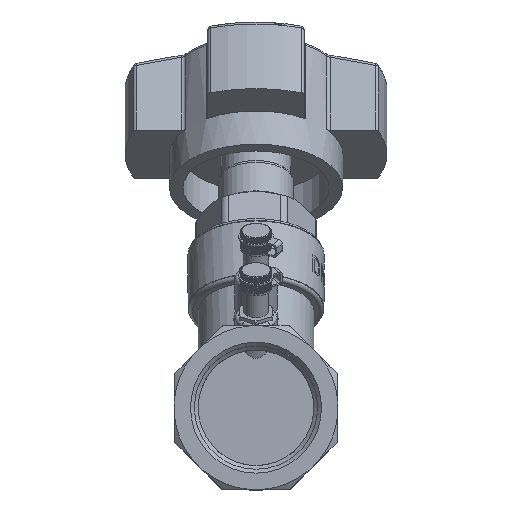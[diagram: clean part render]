
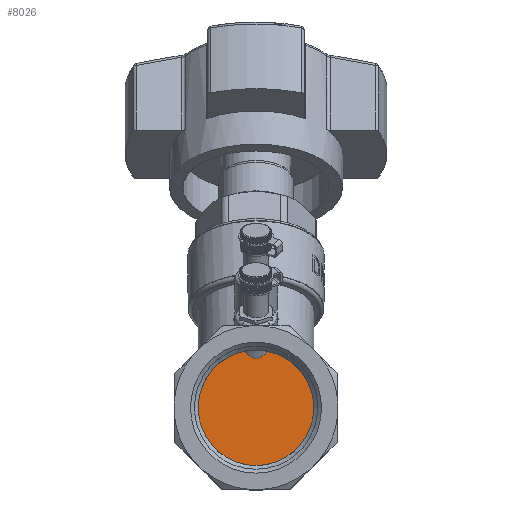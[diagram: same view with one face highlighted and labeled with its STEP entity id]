
A CAD part, top view. The second image highlights one B-rep face of the part: STEP entity #8026.
In plain terms, the highlighted planar face has unit normal (0, 0, 1).
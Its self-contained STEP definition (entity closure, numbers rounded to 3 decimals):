
#8026=ADVANCED_FACE('',(#19421),#19423,.T.);
#19421=FACE_BOUND('',#19422,.T.);
#19422=EDGE_LOOP('',(#27505,#27506,#27507));
#19423=PLANE('',#19424);
#19424=AXIS2_PLACEMENT_3D('',#19425,#19426,#19427);
#19425=CARTESIAN_POINT('',(0.,0.,28.103));
#19426=DIRECTION('',(0.,0.,1.));
#19427=DIRECTION('',(1.,0.,0.));
#27505=ORIENTED_EDGE('',*,*,#32343,.T.);
#27506=ORIENTED_EDGE('',*,*,#31447,.F.);
#27507=ORIENTED_EDGE('',*,*,#31449,.F.);
#31447=EDGE_CURVE('',#36432,#36433,#36434,.T.);
#31449=EDGE_CURVE('',#36435,#36432,#36437,.T.);
#32343=EDGE_CURVE('',#36435,#36433,#37887,.T.);
#36432=VERTEX_POINT('',#63010);
#36433=VERTEX_POINT('',#63011);
#36434=CIRCLE('',#63012,15.);
#36435=VERTEX_POINT('',#63016);
#36437=CIRCLE('',#63105,15.);
#37887=(BOUNDED_CURVE()B_SPLINE_CURVE(3,
(#66910,#66911,#66912,#66913),
.UNSPECIFIED.,.F.,.F.)B_SPLINE_CURVE_WITH_KNOTS((4,4),
(0.,1.),
.UNSPECIFIED.)CURVE()GEOMETRIC_REPRESENTATION_ITEM()RATIONAL_B_SPLINE_CURVE((1.,
0.89,0.89,1.))REPRESENTATION_ITEM(''));
#63010=CARTESIAN_POINT('',(15.,0.,28.103));
#63011=CARTESIAN_POINT('',(-3.031,14.69,28.103));
#63012=AXIS2_PLACEMENT_3D('',#63013,#63014,#63015);
#63013=CARTESIAN_POINT('',(0.,0.,28.103));
#63014=DIRECTION('',(0.,0.,-1.));
#63015=DIRECTION('',(1.,0.,0.));
#63016=CARTESIAN_POINT('',(3.031,14.69,28.103));
#63105=AXIS2_PLACEMENT_3D('',#63106,#63107,#63108);
#63106=CARTESIAN_POINT('',(0.,0.,28.103));
#63107=DIRECTION('',(0.,0.,-1.));
#63108=DIRECTION('',(0.202,0.979,0.));
#66910=CARTESIAN_POINT('',(3.031,14.69,28.103));
#66911=CARTESIAN_POINT('',(1.136,12.186,28.103));
#66912=CARTESIAN_POINT('',(-1.136,12.186,28.103));
#66913=CARTESIAN_POINT('',(-3.031,14.69,28.103));
